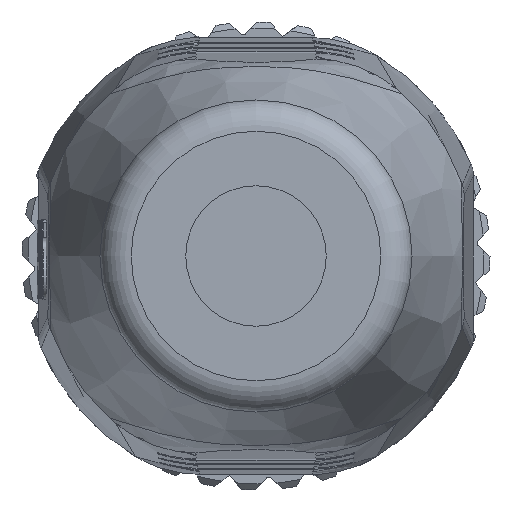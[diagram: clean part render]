
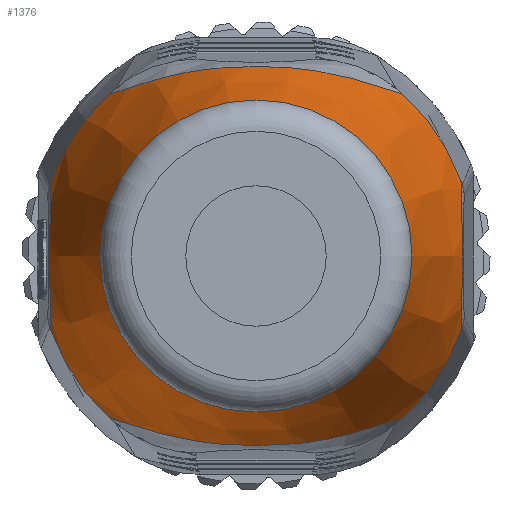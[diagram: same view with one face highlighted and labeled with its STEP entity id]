
A CAD part, front view. The second image highlights one B-rep face of the part: STEP entity #1376.
In plain terms, the highlighted conical face has half-angle 15.945 degrees and reference radius 5 mm.
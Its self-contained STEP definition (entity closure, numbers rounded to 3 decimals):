
#355=CONICAL_SURFACE('',#10164,5.,15.945);
#1019=B_SPLINE_CURVE_WITH_KNOTS('',3,(#14589,#14590,#14591,#14592),
 .UNSPECIFIED.,.F.,.F.,(4,4),(0.,1.),.UNSPECIFIED.);
#1020=B_SPLINE_CURVE_WITH_KNOTS('',3,(#14596,#14597,#14598,#14599,#14600,
#14601,#14602,#14603,#14604,#14605,#14606,#14607,#14608,#14609,#14610,#14611,
#14612,#14613,#14614,#14615,#14616,#14617),.UNSPECIFIED.,.F.,.F.,(4,2,2,
2,2,2,2,2,2,2,4),(0.,0.125,0.188,0.219,0.25,0.5,0.625,0.688,0.719,
0.75,1.),.UNSPECIFIED.);
#1021=B_SPLINE_CURVE_WITH_KNOTS('',3,(#14621,#14622,#14623,#14624),
 .UNSPECIFIED.,.F.,.F.,(4,4),(0.,1.),.UNSPECIFIED.);
#1022=B_SPLINE_CURVE_WITH_KNOTS('',3,(#14628,#14629,#14630,#14631,#14632,
#14633,#14634,#14635,#14636,#14637,#14638,#14639,#14640,#14641,#14642,#14643,
#14644,#14645,#14646,#14647,#14648,#14649),.UNSPECIFIED.,.F.,.F.,(4,2,2,
2,2,2,2,2,2,2,4),(0.,0.125,0.188,0.219,0.25,0.5,0.625,0.688,0.719,
0.75,1.),.UNSPECIFIED.);
#1376=ADVANCED_FACE('',(#2147,#2148),#355,.T.);
#2147=FACE_BOUND('',#2278,.T.);
#2148=FACE_BOUND('',#2279,.T.);
#2278=EDGE_LOOP('',(#4385));
#2279=EDGE_LOOP('',(#4386,#4387,#4388,#4389,#4390,#4391,#4392,#4393));
#4385=ORIENTED_EDGE('',*,*,#8329,.F.);
#4386=ORIENTED_EDGE('',*,*,#8330,.T.);
#4387=ORIENTED_EDGE('',*,*,#8331,.T.);
#4388=ORIENTED_EDGE('',*,*,#8332,.T.);
#4389=ORIENTED_EDGE('',*,*,#8333,.T.);
#4390=ORIENTED_EDGE('',*,*,#8334,.T.);
#4391=ORIENTED_EDGE('',*,*,#8335,.T.);
#4392=ORIENTED_EDGE('',*,*,#8336,.T.);
#4393=ORIENTED_EDGE('',*,*,#8337,.T.);
#7329=VERTEX_POINT('',#14585);
#7330=VERTEX_POINT('',#14587);
#7331=VERTEX_POINT('',#14588);
#7332=VERTEX_POINT('',#14593);
#7333=VERTEX_POINT('',#14595);
#7334=VERTEX_POINT('',#14618);
#7335=VERTEX_POINT('',#14620);
#7336=VERTEX_POINT('',#14625);
#7337=VERTEX_POINT('',#14627);
#8329=EDGE_CURVE('',#7329,#7329,#9678,.T.);
#8330=EDGE_CURVE('',#7330,#7331,#9679,.T.);
#8331=EDGE_CURVE('',#7331,#7332,#1019,.T.);
#8332=EDGE_CURVE('',#7332,#7333,#9680,.T.);
#8333=EDGE_CURVE('',#7333,#7334,#1020,.T.);
#8334=EDGE_CURVE('',#7334,#7335,#9681,.T.);
#8335=EDGE_CURVE('',#7335,#7336,#1021,.T.);
#8336=EDGE_CURVE('',#7336,#7337,#9682,.T.);
#8337=EDGE_CURVE('',#7337,#7330,#1022,.T.);
#9678=CIRCLE('',#10159,5.);
#9679=CIRCLE('',#10160,7.);
#9680=CIRCLE('',#10161,7.);
#9681=CIRCLE('',#10162,7.);
#9682=CIRCLE('',#10163,7.);
#10159=AXIS2_PLACEMENT_3D('',#14584,#11278,#11279);
#10160=AXIS2_PLACEMENT_3D('',#14586,#11280,#11281);
#10161=AXIS2_PLACEMENT_3D('',#14594,#11282,#11283);
#10162=AXIS2_PLACEMENT_3D('',#14619,#11284,#11285);
#10163=AXIS2_PLACEMENT_3D('',#14626,#11286,#11287);
#10164=AXIS2_PLACEMENT_3D('',#14650,#11288,#11289);
#11278=DIRECTION('',(0.,-1.,0.));
#11279=DIRECTION('',(1.,0.,0.));
#11280=DIRECTION('',(0.,-1.,0.));
#11281=DIRECTION('',(1.,0.,0.));
#11282=DIRECTION('',(0.,-1.,0.));
#11283=DIRECTION('',(1.,0.,0.));
#11284=DIRECTION('',(0.,-1.,0.));
#11285=DIRECTION('',(1.,0.,0.));
#11286=DIRECTION('',(0.,-1.,0.));
#11287=DIRECTION('',(1.,0.,0.));
#11288=DIRECTION('',(0.,1.,0.));
#11289=DIRECTION('',(1.,0.,0.));
#14584=CARTESIAN_POINT('',(0.,-18.1,0.));
#14585=CARTESIAN_POINT('',(5.,-18.1,0.));
#14586=CARTESIAN_POINT('',(0.,-11.1,0.));
#14587=CARTESIAN_POINT('',(4.699,-11.1,-5.189));
#14588=CARTESIAN_POINT('',(6.576,-11.1,-2.399));
#14589=CARTESIAN_POINT('',(6.576,-11.1,-2.399));
#14590=CARTESIAN_POINT('',(6.62,-12.908,-0.771));
#14591=CARTESIAN_POINT('',(6.62,-12.908,0.771));
#14592=CARTESIAN_POINT('',(6.576,-11.1,2.399));
#14593=CARTESIAN_POINT('',(6.576,-11.1,2.399));
#14594=CARTESIAN_POINT('',(0.,-11.1,0.));
#14595=CARTESIAN_POINT('',(4.699,-11.1,5.189));
#14596=CARTESIAN_POINT('',(4.699,-11.1,5.189));
#14597=CARTESIAN_POINT('',(4.429,-11.534,5.265));
#14598=CARTESIAN_POINT('',(4.129,-11.933,5.365));
#14599=CARTESIAN_POINT('',(3.626,-12.478,5.525));
#14600=CARTESIAN_POINT('',(3.449,-12.651,5.58));
#14601=CARTESIAN_POINT('',(3.169,-12.897,5.661));
#14602=CARTESIAN_POINT('',(3.073,-12.977,5.687));
#14603=CARTESIAN_POINT('',(2.877,-13.132,5.74));
#14604=CARTESIAN_POINT('',(2.802,-13.19,5.759));
#14605=CARTESIAN_POINT('',(1.642,-14.013,6.035));
#14606=CARTESIAN_POINT('',(0.759,-14.379,6.063));
#14607=CARTESIAN_POINT('',(-0.38,-14.379,6.063));
#14608=CARTESIAN_POINT('',(-0.788,-14.288,6.054));
#14609=CARTESIAN_POINT('',(-1.455,-14.013,5.998));
#14610=CARTESIAN_POINT('',(-1.686,-13.899,5.972));
#14611=CARTESIAN_POINT('',(-2.046,-13.693,5.917));
#14612=CARTESIAN_POINT('',(-2.168,-13.619,5.896));
#14613=CARTESIAN_POINT('',(-2.417,-13.458,5.848));
#14614=CARTESIAN_POINT('',(-2.57,-13.354,5.814));
#14615=CARTESIAN_POINT('',(-3.498,-12.695,5.593));
#14616=CARTESIAN_POINT('',(-4.16,-11.968,5.342));
#14617=CARTESIAN_POINT('',(-4.699,-11.1,5.189));
#14618=CARTESIAN_POINT('',(-4.699,-11.1,5.189));
#14619=CARTESIAN_POINT('',(0.,-11.1,0.));
#14620=CARTESIAN_POINT('',(-6.576,-11.1,2.399));
#14621=CARTESIAN_POINT('',(-6.576,-11.1,2.399));
#14622=CARTESIAN_POINT('',(-6.62,-12.908,0.771));
#14623=CARTESIAN_POINT('',(-6.62,-12.908,-0.771));
#14624=CARTESIAN_POINT('',(-6.576,-11.1,-2.399));
#14625=CARTESIAN_POINT('',(-6.576,-11.1,-2.399));
#14626=CARTESIAN_POINT('',(0.,-11.1,0.));
#14627=CARTESIAN_POINT('',(-4.699,-11.1,-5.189));
#14628=CARTESIAN_POINT('',(-4.699,-11.1,-5.189));
#14629=CARTESIAN_POINT('',(-4.429,-11.534,-5.265));
#14630=CARTESIAN_POINT('',(-4.129,-11.933,-5.365));
#14631=CARTESIAN_POINT('',(-3.626,-12.478,-5.525));
#14632=CARTESIAN_POINT('',(-3.449,-12.651,-5.58));
#14633=CARTESIAN_POINT('',(-3.169,-12.897,-5.661));
#14634=CARTESIAN_POINT('',(-3.073,-12.977,-5.687));
#14635=CARTESIAN_POINT('',(-2.877,-13.132,-5.74));
#14636=CARTESIAN_POINT('',(-2.802,-13.19,-5.759));
#14637=CARTESIAN_POINT('',(-1.642,-14.013,-6.035));
#14638=CARTESIAN_POINT('',(-0.759,-14.379,-6.063));
#14639=CARTESIAN_POINT('',(0.38,-14.379,-6.063));
#14640=CARTESIAN_POINT('',(0.788,-14.288,-6.054));
#14641=CARTESIAN_POINT('',(1.455,-14.013,-5.998));
#14642=CARTESIAN_POINT('',(1.686,-13.899,-5.972));
#14643=CARTESIAN_POINT('',(2.046,-13.693,-5.917));
#14644=CARTESIAN_POINT('',(2.168,-13.619,-5.896));
#14645=CARTESIAN_POINT('',(2.417,-13.458,-5.848));
#14646=CARTESIAN_POINT('',(2.57,-13.354,-5.814));
#14647=CARTESIAN_POINT('',(3.498,-12.695,-5.593));
#14648=CARTESIAN_POINT('',(4.16,-11.968,-5.342));
#14649=CARTESIAN_POINT('',(4.699,-11.1,-5.189));
#14650=CARTESIAN_POINT('',(0.,-18.1,0.));
